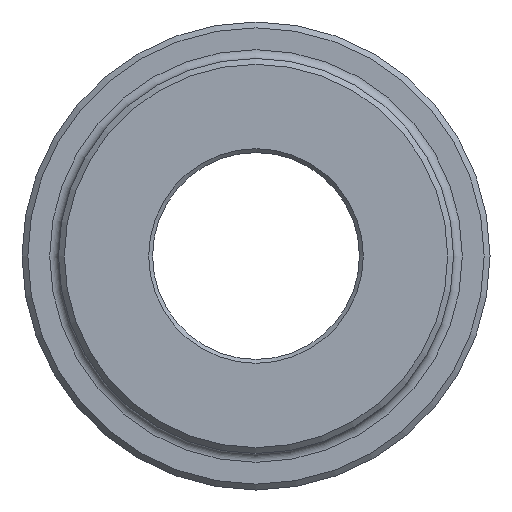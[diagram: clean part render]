
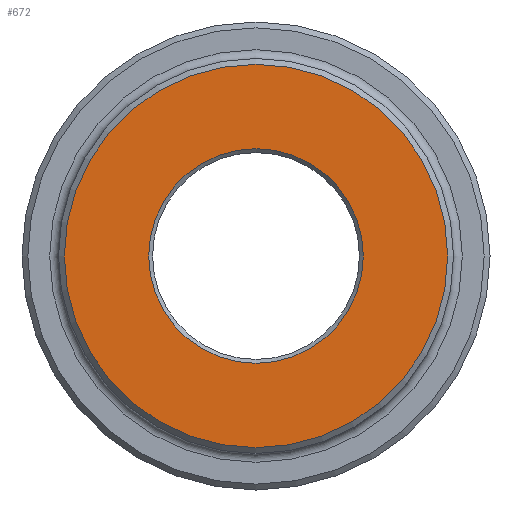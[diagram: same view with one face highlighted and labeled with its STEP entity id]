
A CAD part, left-side view. The second image highlights one B-rep face of the part: STEP entity #672.
In plain terms, the highlighted planar face has unit normal (-1, 0, 0).
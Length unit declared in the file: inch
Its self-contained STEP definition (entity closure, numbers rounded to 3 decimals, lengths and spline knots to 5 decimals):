
#36 = VERTEX_POINT ( 'NONE', #1566 ) ;
#60 = AXIS2_PLACEMENT_3D ( 'NONE', #313, #749, #1018 ) ;
#103 = CARTESIAN_POINT ( 'NONE',  ( 0., 0., 0. ) ) ;
#137 = PLANE ( 'NONE',  #2275 ) ;
#224 = CARTESIAN_POINT ( 'NONE',  ( 0., 0., 0. ) ) ;
#245 = FACE_OUTER_BOUND ( 'NONE', #1954, .T. ) ;
#313 = CARTESIAN_POINT ( 'NONE',  ( 0., 0., 0. ) ) ;
#430 = FACE_BOUND ( 'NONE', #698, .T. ) ;
#475 = ORIENTED_EDGE ( 'NONE', *, *, #2029, .T. ) ;
#668 = DIRECTION ( 'NONE',  ( 1., 0., 0. ) ) ;
#672 = ADVANCED_FACE ( 'NONE', ( #430, #245 ), #137, .F. ) ;
#698 = EDGE_LOOP ( 'NONE', ( #475 ) ) ;
#749 = DIRECTION ( 'NONE',  ( -1., 0., 0. ) ) ;
#868 = CIRCLE ( 'NONE', #60, 1.97 ) ;
#875 = DIRECTION ( 'NONE',  ( 0., 0., -1. ) ) ;
#1018 = DIRECTION ( 'NONE',  ( 0., 0., -1. ) ) ;
#1547 = DIRECTION ( 'NONE',  ( 0., 0., -1. ) ) ;
#1566 = CARTESIAN_POINT ( 'NONE',  ( 0., 0., -1.1029 ) ) ;
#1637 = AXIS2_PLACEMENT_3D ( 'NONE', #224, #668, #1547 ) ;
#1676 = VERTEX_POINT ( 'NONE', #2091 ) ;
#1954 = EDGE_LOOP ( 'NONE', ( #2098 ) ) ;
#2029 = EDGE_CURVE ( 'NONE', #36, #36, #2059, .T. ) ;
#2059 = CIRCLE ( 'NONE', #1637, 1.1029 ) ;
#2091 = CARTESIAN_POINT ( 'NONE',  ( 0., 0., -1.97 ) ) ;
#2098 = ORIENTED_EDGE ( 'NONE', *, *, #2122, .T. ) ;
#2122 = EDGE_CURVE ( 'NONE', #1676, #1676, #868, .T. ) ;
#2198 = DIRECTION ( 'NONE',  ( 1., 0., 0. ) ) ;
#2275 = AXIS2_PLACEMENT_3D ( 'NONE', #103, #2198, #875 ) ;
